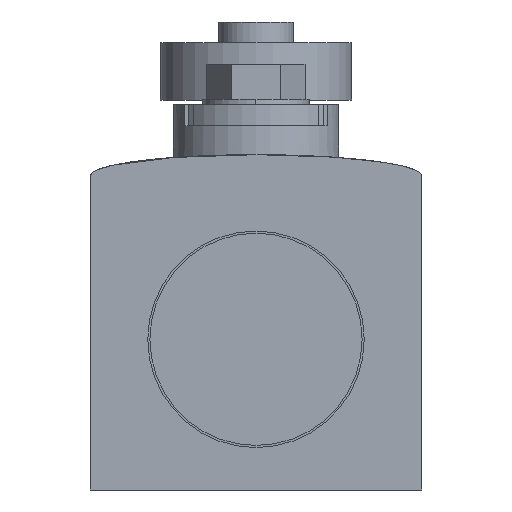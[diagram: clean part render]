
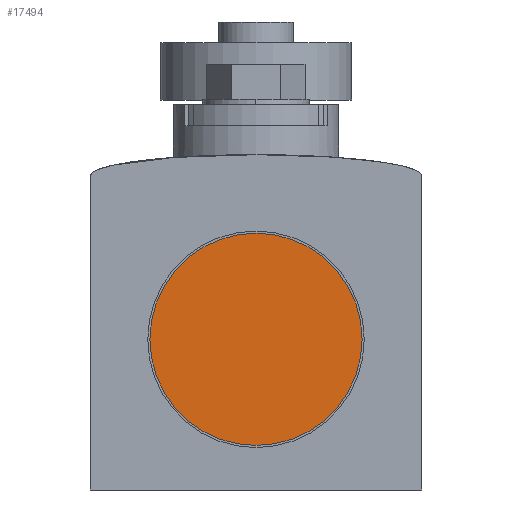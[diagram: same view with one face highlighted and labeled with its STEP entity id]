
A CAD part, front view. The second image highlights one B-rep face of the part: STEP entity #17494.
In plain terms, the highlighted planar face has unit normal (0, -1, 0).
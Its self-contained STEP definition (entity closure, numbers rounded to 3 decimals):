
#816 = EDGE_CURVE ( 'NONE', #22800, #17256, #16069, .T. ) ;
#864 = DIRECTION ( 'NONE',  ( 0., 0., 1. ) ) ;
#1242 = DIRECTION ( 'NONE',  ( 0., 1., 0. ) ) ;
#1996 = ORIENTED_EDGE ( 'NONE', *, *, #19454, .F. ) ;
#2659 = PLANE ( 'NONE',  #19051 ) ;
#3866 = ORIENTED_EDGE ( 'NONE', *, *, #816, .F. ) ;
#4206 = DIRECTION ( 'NONE',  ( 0., 1., 0. ) ) ;
#4655 = CARTESIAN_POINT ( 'NONE',  ( 0., -24., 2. ) ) ;
#4966 = CARTESIAN_POINT ( 'NONE',  ( 0., -24., 12. ) ) ;
#8608 = EDGE_LOOP ( 'NONE', ( #1996, #3866 ) ) ;
#10381 = FACE_OUTER_BOUND ( 'NONE', #8608, .T. ) ;
#12220 = DIRECTION ( 'NONE',  ( 0., 0., 1. ) ) ;
#13149 = CARTESIAN_POINT ( 'NONE',  ( 0., -24., -8. ) ) ;
#13867 = CARTESIAN_POINT ( 'NONE',  ( 0., -24., 2. ) ) ;
#15625 = AXIS2_PLACEMENT_3D ( 'NONE', #4655, #1242, #864 ) ;
#16069 = CIRCLE ( 'NONE', #18491, 10. ) ;
#17256 = VERTEX_POINT ( 'NONE', #4966 ) ;
#17494 = ADVANCED_FACE ( 'NONE', ( #10381 ), #2659, .F. ) ;
#17936 = DIRECTION ( 'NONE',  ( 0., 1., 0. ) ) ;
#18137 = DIRECTION ( 'NONE',  ( 0., 0., 1. ) ) ;
#18491 = AXIS2_PLACEMENT_3D ( 'NONE', #13867, #17936, #12220 ) ;
#19051 = AXIS2_PLACEMENT_3D ( 'NONE', #21702, #4206, #18137 ) ;
#19454 = EDGE_CURVE ( 'NONE', #17256, #22800, #22094, .T. ) ;
#21702 = CARTESIAN_POINT ( 'NONE',  ( 0., -24., 12. ) ) ;
#22094 = CIRCLE ( 'NONE', #15625, 10. ) ;
#22800 = VERTEX_POINT ( 'NONE', #13149 ) ;
